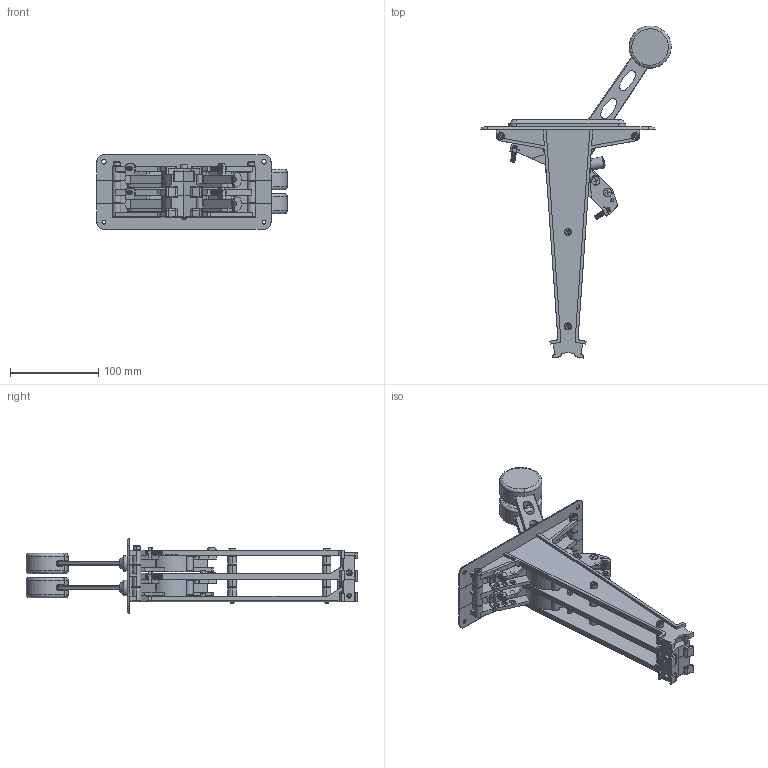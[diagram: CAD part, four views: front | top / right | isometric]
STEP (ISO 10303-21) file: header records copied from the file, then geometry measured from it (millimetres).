
FILE_DESCRIPTION (( 'STEP AP214' ), '1' );
FILE_NAME ('2018-MMC.STEP', '2025-03-27T21:29:41', ( '' ), ( '' ), 'SwSTEP 2.0', 'SolidWorks 2023', '' );
FILE_SCHEMA (( 'AUTOMOTIVE_DESIGN' ));
Products named in the file (1): 2018-MMC
Bounding box: 215.03 x 375.15 x 84.07 mm (x, y, z)
Surface area: 200404.5 mm2 (no closed solid volume)
Topology: 0 solids, 54 shells, 1241 faces, 4026 edges, 2796 vertices
Faces by surface type: cylinder 524, plane 481, torus 98, cone 80, bspline 54, sphere 4
Entity records: 88807 total; most frequent: CARTESIAN_POINT 54466, DIRECTION 6898, ORIENTED_EDGE 6809, EDGE_CURVE 4023, VERTEX_POINT 2795, AXIS2_PLACEMENT_3D 2459, LINE 1980, VECTOR 1980
